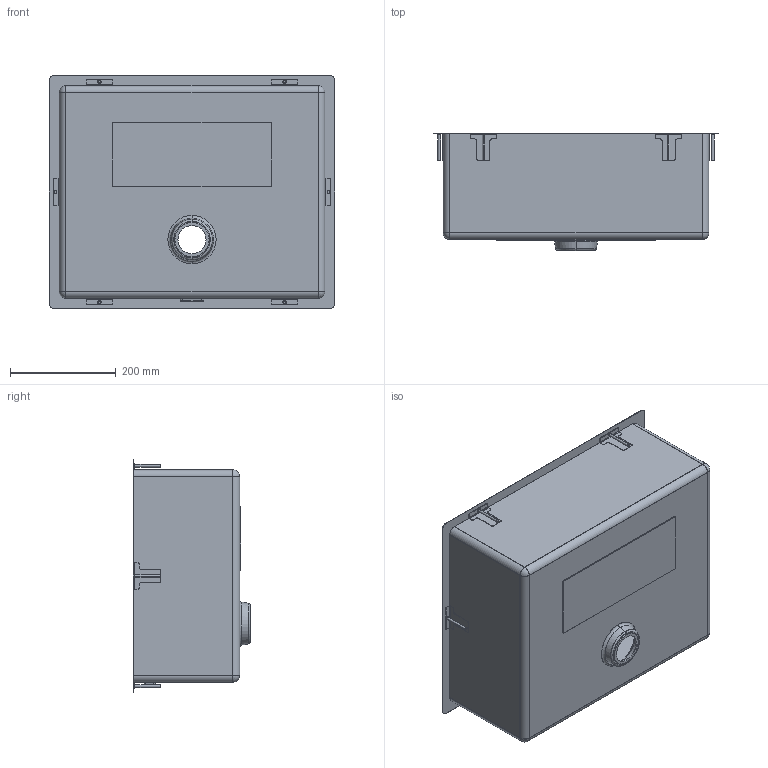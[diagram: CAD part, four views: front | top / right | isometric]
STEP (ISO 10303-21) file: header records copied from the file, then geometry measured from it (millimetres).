
FILE_DESCRIPTION (( 'STEP AP203' ), '1' );
FILE_NAME ('Matra 54x44 1v.STEP', '2021-01-27T15:51:52', ( 'Utente Windows' ), ( '' ), 'SwSTEP 2.0', 'SolidWorks 2020', '' );
FILE_SCHEMA (( 'CONFIG_CONTROL_DESIGN' ));
Length unit declared in the file: millimetre
Products named in the file (11): Ass. GB17P6; Matra 54x44 1v; GB17P4 - inserto filettato M5; TF13 - smorzante 300x120x1,8; GB17P1 - base gancio_Piegato; Matra - piletta integrata_54x44 1v
Assembly tree (20 placements, depth 3):
  Matra 54x44 1v
    Matra - piletta integrata_54x44 1v
    Ass. GB17P6
      GB17P1 - base gancio_Piegato
      GB17P4 - inserto filettato M5
    Ass. GB17P6
      GB17P1 - base gancio_Piegato
      GB17P4 - inserto filettato M5
    TF13 - smorzante 300x120x1,8
    Ass. GB17P6
      GB17P1 - base gancio_Piegato
      GB17P4 - inserto filettato M5
    Ass. GB17P6
      GB17P1 - base gancio_Piegato
      GB17P4 - inserto filettato M5
    Ass. GB17P6
      GB17P1 - base gancio_Piegato
      GB17P4 - inserto filettato M5
    Ass. GB17P6
      GB17P1 - base gancio_Piegato
      GB17P4 - inserto filettato M5
Bounding box: 540 x 221.9 x 440 mm (x, y, z)
Volume: 609738.2 mm3; surface area: 1277162.9 mm2
Topology: 14 solids, 14 shells, 321 faces, 791 edges, 494 vertices
Faces by surface type: plane 168, cylinder 117, cone 20, torus 8, sphere 8
Entity records: 6302 total; most frequent: DIRECTION 919, CARTESIAN_POINT 866, ORIENTED_EDGE 806, EDGE_CURVE 403, AXIS2_PLACEMENT_3D 339, VERTEX_POINT 254, VECTOR 241, LINE 241
